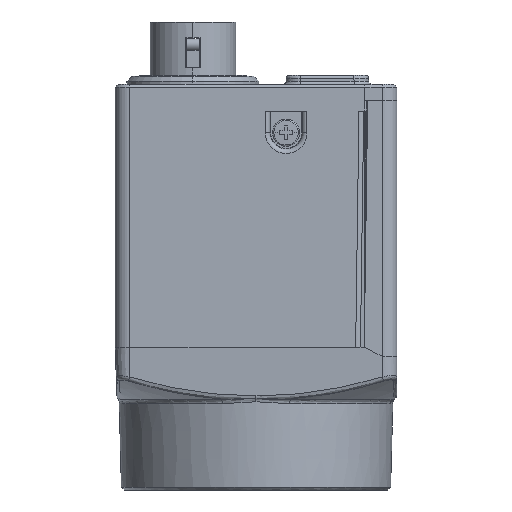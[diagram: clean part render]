
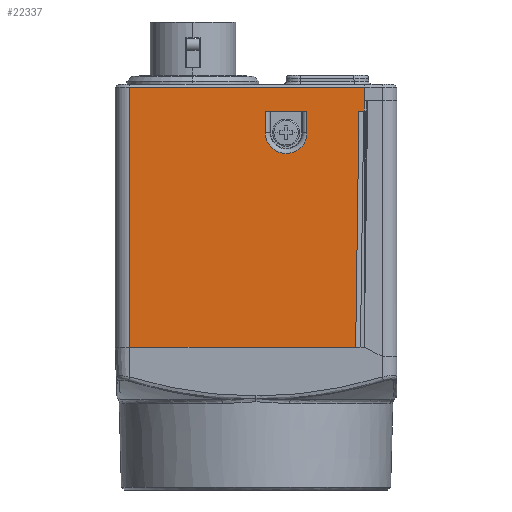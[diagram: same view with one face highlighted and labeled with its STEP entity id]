
A CAD part, left-side view. The second image highlights one B-rep face of the part: STEP entity #22337.
In plain terms, the highlighted planar face has unit normal (-1, 0, 0).
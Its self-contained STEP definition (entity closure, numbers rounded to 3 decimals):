
#1053=DIRECTION('',(0.,-1.,0.));
#1054=VECTOR('',#1053,23.263);
#1055=CARTESIAN_POINT('',(-14.5,13.,-11.75));
#1056=LINE('',#1055,#1054);
#1098=DIRECTION('',(0.,-0.014,1.));
#1099=VECTOR('',#1098,24.322);
#1100=CARTESIAN_POINT('',(-14.5,-10.263,-11.75));
#1101=LINE('',#1100,#1099);
#1102=DIRECTION('',(0.,-1.,0.));
#1103=VECTOR('',#1102,24.2);
#1104=CARTESIAN_POINT('',(-14.5,13.,15.05));
#1105=LINE('',#1104,#1103);
#1106=DIRECTION('',(0.,-0.001,1.));
#1107=VECTOR('',#1106,1.35);
#1108=CARTESIAN_POINT('',(-14.5,-11.199,
13.7));
#1109=LINE('',#1108,#1107);
#1110=CARTESIAN_POINT('',(-14.5,-11.199,
13.7));
#1111=CARTESIAN_POINT('',(-14.5,-11.196,
13.7));
#1112=CARTESIAN_POINT('',(-14.5,-11.192,
13.7));
#1113=CARTESIAN_POINT('',(-14.5,-11.183,
13.7));
#1114=CARTESIAN_POINT('',(-14.5,-11.178,13.7));
#1115=CARTESIAN_POINT('',(-14.5,-11.175,13.7));
#1117=DIRECTION('',(0.,0.009,-1.));
#1118=VECTOR('',#1117,1.13);
#1119=CARTESIAN_POINT('',(-14.5,-11.175,13.7));
#1120=LINE('',#1119,#1118);
#1121=DIRECTION('',(0.,0.,1.));
#1122=VECTOR('',#1121,2.22);
#1123=CARTESIAN_POINT('',(-14.5,-0.95,10.35));
#1124=LINE('',#1123,#1122);
#1125=CARTESIAN_POINT('',(-14.5,-3.1,10.35));
#1126=DIRECTION('',(1.,0.,0.));
#1127=DIRECTION('',(0.,-1.,0.));
#1128=AXIS2_PLACEMENT_3D('',#1125,#1126,#1127);
#1130=DIRECTION('',(0.,0.,-1.));
#1131=VECTOR('',#1130,2.22);
#1132=CARTESIAN_POINT('',(-14.5,-5.25,12.57));
#1133=LINE('',#1132,#1131);
#1152=CARTESIAN_POINT('',(-14.5,-10.602,12.57));
#1158=DIRECTION('',(0.,-1.,0.));
#1159=VECTOR('',#1158,0.563);
#1160=CARTESIAN_POINT('',(-14.5,-10.602,12.57));
#1161=LINE('',#1160,#1159);
#1162=CARTESIAN_POINT('',(-14.5,-11.166,12.57));
#1900=DIRECTION('',(0.,0.,-1.));
#1901=VECTOR('',#1900,26.8);
#1902=CARTESIAN_POINT('',(-14.5,13.,15.05));
#1903=LINE('',#1902,#1901);
#15759=DIRECTION('',(0.,-1.,0.));
#15760=VECTOR('',#15759,4.3);
#15761=CARTESIAN_POINT('',(-14.5,-0.95,12.57));
#15762=LINE('',#15761,#15760);
#17270=CARTESIAN_POINT('',(-14.5,13.,15.05));
#17271=VERTEX_POINT('',#17270);
#17274=CARTESIAN_POINT('',(-14.5,-11.2,15.05));
#17275=VERTEX_POINT('',#17274);
#17405=VERTEX_POINT('',#1162);
#17406=CARTESIAN_POINT('',(-14.5,-11.175,13.7));
#17407=VERTEX_POINT('',#17406);
#17409=VERTEX_POINT('',#1110);
#20407=CARTESIAN_POINT('',(-14.5,-5.25,10.35));
#20408=CARTESIAN_POINT('',(-14.5,-0.95,10.35));
#20409=VERTEX_POINT('',#20407);
#20410=VERTEX_POINT('',#20408);
#20443=CARTESIAN_POINT('',(-14.5,13.,-11.75));
#20444=CARTESIAN_POINT('',(-14.5,-10.263,-11.75));
#20445=VERTEX_POINT('',#20443);
#20446=VERTEX_POINT('',#20444);
#20493=VERTEX_POINT('',#1152);
#20519=CARTESIAN_POINT('',(-14.5,-0.95,12.57));
#20520=VERTEX_POINT('',#20519);
#20521=CARTESIAN_POINT('',(-14.5,-5.25,12.57));
#20522=VERTEX_POINT('',#20521);
#22305=CARTESIAN_POINT('',(-14.5,-13.52,14.804));
#22306=DIRECTION('',(-1.,0.,0.));
#22307=DIRECTION('',(0.,0.,1.));
#22308=AXIS2_PLACEMENT_3D('',#22305,#22306,#22307);
#22309=PLANE('',#22308);
#22311=ORIENTED_EDGE('',*,*,#22310,.F.);
#22313=ORIENTED_EDGE('',*,*,#22312,.F.);
#22314=ORIENTED_EDGE('',*,*,#22290,.F.);
#22316=ORIENTED_EDGE('',*,*,#22315,.F.);
#22318=ORIENTED_EDGE('',*,*,#22317,.T.);
#22320=ORIENTED_EDGE('',*,*,#22319,.F.);
#22322=ORIENTED_EDGE('',*,*,#22321,.T.);
#22324=ORIENTED_EDGE('',*,*,#22323,.T.);
#22325=EDGE_LOOP('',(#22311,#22313,#22314,#22316,#22318,#22320,#22322,#22324));
#22326=FACE_OUTER_BOUND('',#22325,.F.);
#22328=ORIENTED_EDGE('',*,*,#22327,.F.);
#22330=ORIENTED_EDGE('',*,*,#22329,.F.);
#22332=ORIENTED_EDGE('',*,*,#22331,.F.);
#22334=ORIENTED_EDGE('',*,*,#22333,.F.);
#22335=EDGE_LOOP('',(#22328,#22330,#22332,#22334));
#22336=FACE_BOUND('',#22335,.F.);
#22337=ADVANCED_FACE('',(#22326,#22336),#22309,.T.);
#1116=B_SPLINE_CURVE_WITH_KNOTS('',3,(#1110,#1111,#1112,#1113,#1114,#1115),
.UNSPECIFIED.,.F.,.F.,(4,1,1,4),(0.,0.333,0.667,1.),
.UNSPECIFIED.);
#1129=CIRCLE('',#1128,2.15);
#22290=EDGE_CURVE('',#20445,#20446,#1056,.T.);
#22310=EDGE_CURVE('',#20493,#17405,#1161,.T.);
#22312=EDGE_CURVE('',#20446,#20493,#1101,.T.);
#22315=EDGE_CURVE('',#17271,#20445,#1903,.T.);
#22317=EDGE_CURVE('',#17271,#17275,#1105,.T.);
#22319=EDGE_CURVE('',#17409,#17275,#1109,.T.);
#22321=EDGE_CURVE('',#17409,#17407,#1116,.T.);
#22323=EDGE_CURVE('',#17407,#17405,#1120,.T.);
#22327=EDGE_CURVE('',#20520,#20522,#15762,.T.);
#22329=EDGE_CURVE('',#20410,#20520,#1124,.T.);
#22331=EDGE_CURVE('',#20409,#20410,#1129,.T.);
#22333=EDGE_CURVE('',#20522,#20409,#1133,.T.);
